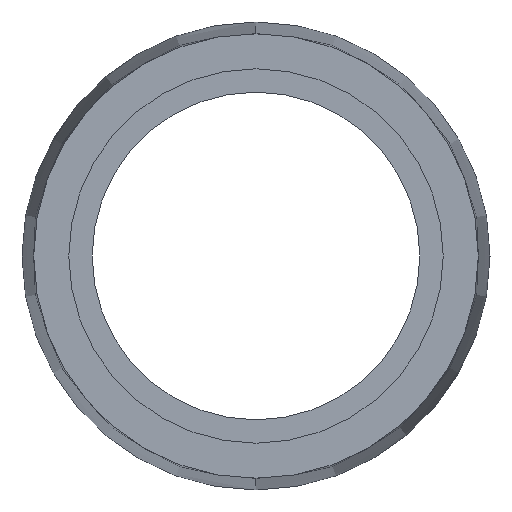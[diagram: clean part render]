
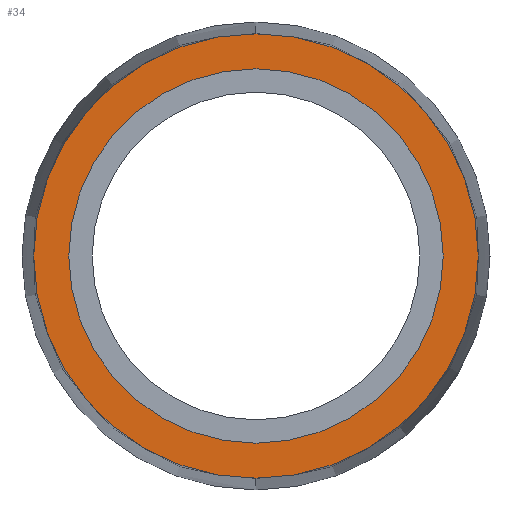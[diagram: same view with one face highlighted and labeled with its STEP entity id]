
A CAD part, left-side view. The second image highlights one B-rep face of the part: STEP entity #34.
In plain terms, the highlighted planar face has unit normal (-1, 0, 0).
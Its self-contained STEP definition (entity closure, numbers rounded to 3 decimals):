
#31 = EDGE_CURVE ( 'NONE', #112, #130, #178, .T. ) ;
#34 = ADVANCED_FACE ( 'NONE', ( #180, #179 ), #185, .F. ) ;
#36 = EDGE_CURVE ( 'NONE', #130, #112, #259, .T. ) ;
#38 = ORIENTED_EDGE ( 'NONE', *, *, #31, .F. ) ;
#39 = EDGE_CURVE ( 'NONE', #70, #76, #244, .T. ) ;
#70 = VERTEX_POINT ( 'NONE', #279 ) ;
#76 = VERTEX_POINT ( 'NONE', #339 ) ;
#77 = EDGE_CURVE ( 'NONE', #76, #70, #278, .T. ) ;
#88 = EDGE_LOOP ( 'NONE', ( #134, #38 ) ) ;
#92 = ORIENTED_EDGE ( 'NONE', *, *, #77, .T. ) ;
#103 = CARTESIAN_POINT ( 'NONE',  ( -110., 0., -8. ) ) ;
#110 = EDGE_LOOP ( 'NONE', ( #111, #92 ) ) ;
#111 = ORIENTED_EDGE ( 'NONE', *, *, #39, .T. ) ;
#112 = VERTEX_POINT ( 'NONE', #103 ) ;
#130 = VERTEX_POINT ( 'NONE', #374 ) ;
#134 = ORIENTED_EDGE ( 'NONE', *, *, #36, .F. ) ;
#177 = AXIS2_PLACEMENT_3D ( 'NONE', #277, #265, #264 ) ;
#178 = CIRCLE ( 'NONE', #177, 8. ) ;
#179 = FACE_OUTER_BOUND ( 'NONE', #110, .T. ) ;
#180 = FACE_BOUND ( 'NONE', #88, .T. ) ;
#185 = PLANE ( 'NONE',  #260 ) ;
#188 = CARTESIAN_POINT ( 'NONE',  ( -110., 9.5, 0. ) ) ;
#200 = AXIS2_PLACEMENT_3D ( 'NONE', #248, #247, #246 ) ;
#240 = DIRECTION ( 'NONE',  ( 0., 0., 1. ) ) ;
#241 = DIRECTION ( 'NONE',  ( -1., 0., 0. ) ) ;
#242 = CARTESIAN_POINT ( 'NONE',  ( -110., 0., 0. ) ) ;
#243 = AXIS2_PLACEMENT_3D ( 'NONE', #242, #241, #240 ) ;
#244 = CIRCLE ( 'NONE', #243, 9.5 ) ;
#246 = DIRECTION ( 'NONE',  ( 0., 0., 1. ) ) ;
#247 = DIRECTION ( 'NONE',  ( -1., 0., 0. ) ) ;
#248 = CARTESIAN_POINT ( 'NONE',  ( -110., 0., 0. ) ) ;
#255 = DIRECTION ( 'NONE',  ( 0., 0., -1. ) ) ;
#256 = DIRECTION ( 'NONE',  ( 1., 0., 0. ) ) ;
#259 = CIRCLE ( 'NONE', #200, 8. ) ;
#260 = AXIS2_PLACEMENT_3D ( 'NONE', #188, #256, #255 ) ;
#264 = DIRECTION ( 'NONE',  ( 0., 0., 1. ) ) ;
#265 = DIRECTION ( 'NONE',  ( -1., 0., 0. ) ) ;
#277 = CARTESIAN_POINT ( 'NONE',  ( -110., 0., 0. ) ) ;
#278 = CIRCLE ( 'NONE', #325, 9.5 ) ;
#279 = CARTESIAN_POINT ( 'NONE',  ( -110., 0., -9.5 ) ) ;
#322 = DIRECTION ( 'NONE',  ( 0., 0., 1. ) ) ;
#323 = DIRECTION ( 'NONE',  ( -1., 0., 0. ) ) ;
#324 = CARTESIAN_POINT ( 'NONE',  ( -110., 0., 0. ) ) ;
#325 = AXIS2_PLACEMENT_3D ( 'NONE', #324, #323, #322 ) ;
#339 = CARTESIAN_POINT ( 'NONE',  ( -110., 0., 9.5 ) ) ;
#374 = CARTESIAN_POINT ( 'NONE',  ( -110., 0., 8. ) ) ;
